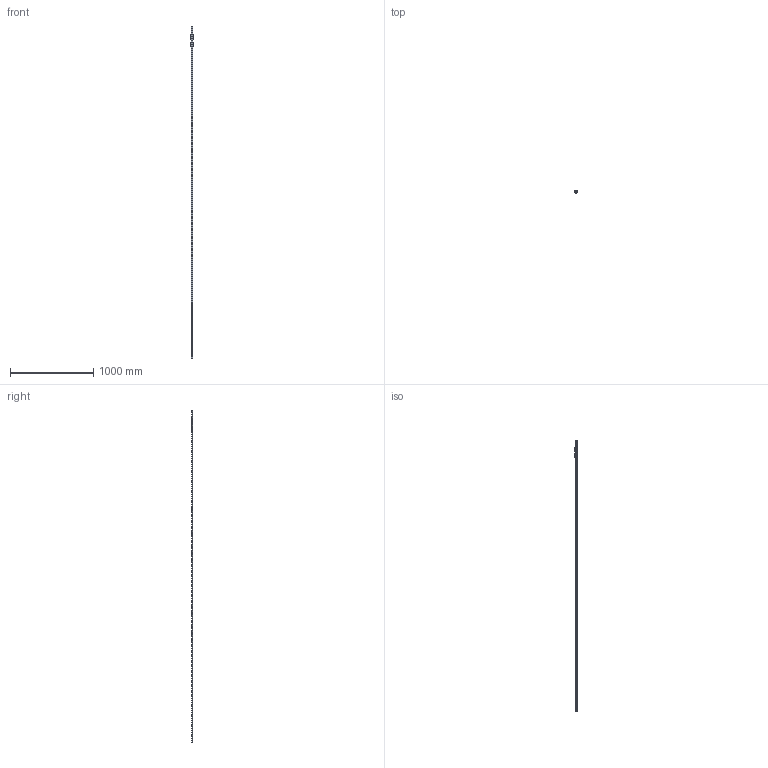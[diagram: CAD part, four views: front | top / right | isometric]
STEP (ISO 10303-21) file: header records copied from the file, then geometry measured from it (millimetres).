
FILE_DESCRIPTION((''),'2;1');
FILE_NAME('BRS15-A0_CUSTOMER_ASM_1__ASM','2020-11-23T11:50:57',('TWVS2025'),(''),'CREO PARAMETRIC BY PTC INC, 2018420','CREO PARAMETRIC BY PTC INC, 2018420','');
FILE_SCHEMA(('AUTOMOTIVE_DESIGN { 1 0 10303 214 1 1 1 1 }'));
Products named in the file (4): BRR15_CUSTOMER_1_; BC-BRC15-A0_ASM_1_; BC-BRD15-A0-ASM_1_1; BRS15-A0_CUSTOMER_ASM_1__ASM
Assembly tree (3 placements, depth 2):
  BRS15-A0_CUSTOMER_ASM_1__ASM
    BRR15_CUSTOMER_1_
    BC-BRC15-A0_ASM_1_
    BC-BRD15-A0-ASM_1_1
Bounding box: 46.95 x 24 x 4000 mm (x, y, z)
Volume: 745422.9 mm3; surface area: 290634.4 mm2
Topology: 2 solids, 30 shells, 4066 faces, 11226 edges, 7168 vertices
Faces by surface type: plane 1799, cylinder 1352, cone 416, torus 338, bspline 148, sphere 13
Entity records: 176262 total; most frequent: CARTESIAN_POINT 75494, ORIENTED_EDGE 22174, DIRECTION 19458, EDGE_CURVE 11190, VERTEX_POINT 7168, AXIS2_PLACEMENT_3D 6943, VECTOR 5572, LINE 5572
